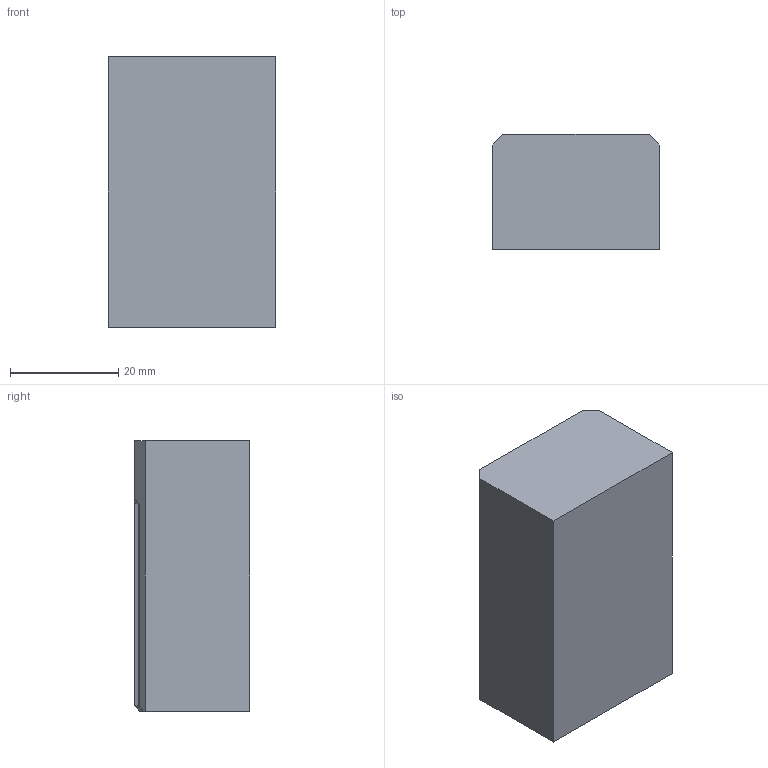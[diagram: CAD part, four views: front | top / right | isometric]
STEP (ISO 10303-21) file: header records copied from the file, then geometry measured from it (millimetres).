
FILE_DESCRIPTION(/* description */ (''),/* implementation_level */ '2;1');
FILE_NAME(/* name */ 'Modular Clamp - Connector for your own design.step',/* time_stamp */ '2023-07-16T20:33:55+02:00',/* author */ (''),/* organization */ (''),/* preprocessor_version */ 'ST-DEVELOPER v19.2',/* originating_system */ 'Autodesk Translation Framework v12.6.0.85',/* authorisation */ '');
FILE_SCHEMA (('AUTOMOTIVE_DESIGN { 1 0 10303 214 3 1 1 }'));
Length unit declared in the file: millimetre
Products named in the file (1): Modular Clamp V1
Bounding box: 31 x 21.26 x 50 mm (x, y, z)
Volume: 26845.6 mm3; surface area: 8371.9 mm2
Topology: 1 solids, 1 shells, 35 faces, 87 edges, 54 vertices
Faces by surface type: plane 29, cone 4, cylinder 2
Entity records: 1053 total; most frequent: CARTESIAN_POINT 177, ORIENTED_EDGE 174, DIRECTION 167, EDGE_CURVE 87, LINE 79, VECTOR 79, VERTEX_POINT 54, AXIS2_PLACEMENT_3D 44
